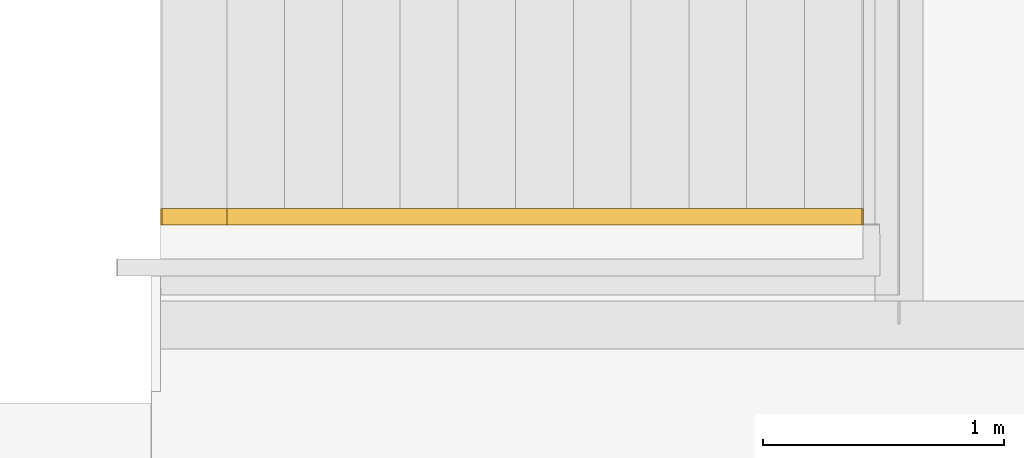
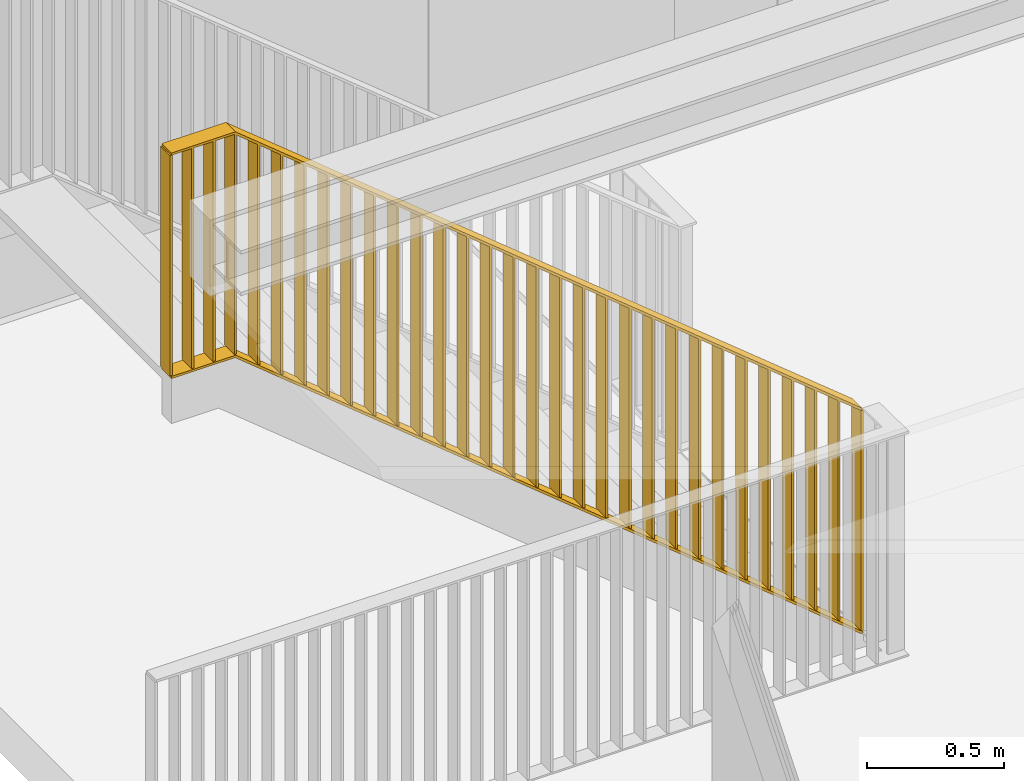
# One storey, part 22 of 35: 1 railing.
"""IFC2X3 building model written with IfcOpenShell, lengths in millimetres."""

from ifc_helpers import new_model, entity, si_unit, converted_unit, derived_unit, money_unit, direction, frame, origin_with_axes, place, context, subcontext, project, spatial, faceted_brep, material, material_list, type_object, element, save


model = new_model("IFC2X3")

# Units and contexts
model_context = context("Model", 3, precision=0.01, world=origin_with_axes(), true_north=direction((0.0, 1.0)))
body_context = subcontext(model_context, "Body", "Model", "MODEL_VIEW")
ifc_project = project(units=[si_unit("LENGTHUNIT", "METRE", prefix="MILLI"), si_unit("AREAUNIT", "SQUARE_METRE"), si_unit("VOLUMEUNIT", "CUBIC_METRE"), converted_unit("PLANEANGLEUNIT", "DEGREE", entity("IfcPlaneAngleMeasure", 0.0174532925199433), si_unit("PLANEANGLEUNIT", "RADIAN"), dimensions=[0, 0, 0, 0, 0, 0, 0]), money_unit("EUR"), converted_unit("TIMEUNIT", "Year", entity("IfcTimeMeasure", 31557600.0), si_unit("TIMEUNIT", "SECOND"), dimensions=[0, 0, 1, 0, 0, 0, 0]), si_unit("MASSUNIT", "GRAM", prefix="KILO"), si_unit("THERMODYNAMICTEMPERATUREUNIT", "DEGREE_CELSIUS"), si_unit("LUMINOUSINTENSITYUNIT", "LUMEN"), si_unit("ENERGYUNIT", "JOULE", prefix="MEGA"), derived_unit("THERMALCONDUCTANCEUNIT", [(si_unit("POWERUNIT", "WATT"), 1), (si_unit("LENGTHUNIT", "METRE"), -1), (si_unit("THERMODYNAMICTEMPERATUREUNIT", "KELVIN"), -1)]), derived_unit("SPECIFICHEATCAPACITYUNIT", [(si_unit("ENERGYUNIT", "JOULE"), 1), (si_unit("MASSUNIT", "GRAM", prefix="KILO"), -1), (si_unit("THERMODYNAMICTEMPERATUREUNIT", "KELVIN"), -1)]), derived_unit("MASSDENSITYUNIT", [(si_unit("MASSUNIT", "GRAM", prefix="KILO"), 1), (si_unit("VOLUMEUNIT", "CUBIC_METRE"), -1)])], contexts=[model_context])

# Site, building, storey
site_placement = place(None, origin_with_axes())
site = spatial("IfcSite", under=ifc_project, at=site_placement, Name="<site naam>", CompositionType="ELEMENT")
building_placement = place(site_placement, origin_with_axes())
building = spatial("IfcBuilding", under=site, at=building_placement, Name="<Naam gebouw>", CompositionType="ELEMENT")
storey_placement = place(building_placement, frame((0.0, 0.0, 6345.0), z_axis=(0.0, 0.0, 1.0), x_axis=(1.0, 0.0, 0.0)))
storey = spatial("IfcBuildingStorey", under=building, at=storey_placement, Name="02 2e tussenverdieping", CompositionType="ELEMENT", Elevation=6345.0)

# Railing
ifc_material = material(Name="staal balustrade")
ifc_material_list = material_list([ifc_material, ifc_material, ifc_material, ifc_material, ifc_material, ifc_material, ifc_material, ifc_material, ifc_material, ifc_material, ifc_material, ifc_material, ifc_material, ifc_material, ifc_material, ifc_material, ifc_material, ifc_material, ifc_material, ifc_material, ifc_material, ifc_material, ifc_material, ifc_material, ifc_material, ifc_material, ifc_material, ifc_material, ifc_material, ifc_material, ifc_material, ifc_material, ifc_material, ifc_material, ifc_material])
railing_type = type_object("IfcRailingType", Name="Railing Type", PredefinedType="NOTDEFINED")
railing_placement = place(storey_placement, frame((54815.00000000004, 8415.00000000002, -8.253160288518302e-05), z_axis=(0.0, 0.0, 1.0), x_axis=(1.0, 0.0, 0.0)))
element("IfcRailing", 1, at=railing_placement, inside=storey, type_object=railing_type, material=ifc_material_list, Name="34_Reling_", PredefinedType="NOTDEFINED", context=body_context, shape_type="Brep", body=[
    faceted_brep([(269.6011202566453, 0.0, 14.99999999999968), (269.6011202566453, 0.0, 995.0000000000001), (269.6011202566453, 70.00000000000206, 995.0000000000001), (269.6011202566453, 70.00000000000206, 14.99999999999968), (279.6011202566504, 0.0, 14.99999999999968), (279.6011202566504, 0.0, 995.0000000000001), (279.6011202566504, 70.00000000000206, 995.0000000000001), (279.6011202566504, 70.00000000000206, 14.99999999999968)], [[[0, 1, 2, 3]], [[4, 5, 1, 0]], [[1, 5, 6, 2]], [[3, 2, 6, 7]], [[0, 3, 7, 4]], [[7, 6, 5, 4]]]),
    faceted_brep([(-2370.398879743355, 0.0, 2170.000000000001), (-2370.398879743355, 0.0, 3150.0), (-2370.398879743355, 70.00000000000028, 3150.0), (-2370.398879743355, 70.00000000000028, 2170.000000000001), (-2360.39887974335, 0.0, 2170.000000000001), (-2360.39887974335, 0.0, 3150.0), (-2360.39887974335, 70.00000000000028, 3150.0), (-2360.39887974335, 70.00000000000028, 2170.000000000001)], [[[0, 1, 2, 3]], [[4, 5, 1, 0]], [[1, 5, 6, 2]], [[3, 2, 6, 7]], [[0, 3, 7, 4]], [[7, 6, 5, 4]]]),
    faceted_brep([(-2640.398879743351, 0.0, 2170.000000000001), (-2640.398879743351, 0.0, 3150.000000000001), (-2640.398879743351, 70.00000000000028, 3150.000000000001), (-2640.398879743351, 70.00000000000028, 2170.000000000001), (-2630.398879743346, 0.0, 2170.000000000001), (-2630.398879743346, 0.0, 3150.000000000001), (-2630.398879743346, 70.00000000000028, 3150.000000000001), (-2630.398879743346, 70.00000000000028, 2170.000000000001)], [[[0, 1, 2, 3]], [[4, 5, 1, 0]], [[1, 5, 6, 2]], [[3, 2, 6, 7]], [[0, 3, 7, 4]], [[7, 6, 5, 4]]]),
    faceted_brep([(274.6011202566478, 70.00000000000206, 1005.0), (268.2775350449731, 70.00000000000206, 997.2532413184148), (-2368.962113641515, 70.00000000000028, 3150.0), (-2365.398879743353, 70.00000000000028, 3159.999999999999), (274.6011202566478, 0.0, 1005.0), (268.2775350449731, 0.0, 997.2532413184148), (-2368.962113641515, 0.0, 3150.0), (-2365.398879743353, 0.0, 3159.999999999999)], [[[0, 1, 2, 3]], [[0, 4, 5, 1]], [[1, 5, 6, 2]], [[3, 2, 6, 7]], [[4, 0, 3, 7]], [[5, 4, 7, 6]]]),
    faceted_brep([(277.7629128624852, 70.00000000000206, 8.87337934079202), (271.4393276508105, 70.00000000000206, 1.126620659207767), (-2365.398879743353, 70.00000000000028, 2153.545687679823), (-2365.398879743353, 70.00000000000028, 2166.454312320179), (277.7629128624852, 0.0, 8.87337934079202), (271.4393276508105, 0.0, 1.126620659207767), (-2365.398879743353, 0.0, 2153.545687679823), (-2365.398879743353, 0.0, 2166.454312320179)], [[[0, 1, 2, 3]], [[0, 4, 5, 1]], [[1, 5, 6, 2]], [[3, 2, 6, 7]], [[4, 0, 3, 7]], [[5, 4, 7, 6]]]),
    faceted_brep([(171.8233424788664, 0.0, 98.89625420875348), (171.8233424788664, 0.0, 1078.896254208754), (171.8233424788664, 70.00000000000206, 1078.896254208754), (171.8233424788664, 70.00000000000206, 98.89625420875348), (181.8233424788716, 0.0, 90.733375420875), (181.8233424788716, 0.0, 1070.733375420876), (181.8233424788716, 70.00000000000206, 1070.733375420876), (181.8233424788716, 70.00000000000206, 90.733375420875)], [[[0, 1, 2, 3]], [[4, 5, 1, 0]], [[1, 5, 6, 2]], [[3, 2, 6, 7]], [[0, 3, 7, 4]], [[7, 6, 5, 4]]]),
    faceted_brep([(74.04556470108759, 0.0, 178.7110690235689), (74.04556470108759, 0.0, 1158.711069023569), (74.04556470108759, 70.00000000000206, 1158.711069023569), (74.04556470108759, 70.00000000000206, 178.7110690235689), (84.0455647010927, 0.0, 170.5481902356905), (84.0455647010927, 0.0, 1150.548190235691), (84.0455647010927, 70.00000000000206, 1150.548190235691), (84.0455647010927, 70.00000000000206, 170.5481902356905)], [[[0, 1, 2, 3]], [[4, 5, 1, 0]], [[1, 5, 6, 2]], [[3, 2, 6, 7]], [[0, 3, 7, 4]], [[7, 6, 5, 4]]]),
    faceted_brep([(-23.73221307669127, 0.0, 258.5258838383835), (-23.73221307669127, 0.0, 1238.525883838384), (-23.73221307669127, 70.00000000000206, 1238.525883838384), (-23.73221307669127, 70.00000000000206, 258.5258838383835), (-13.73221307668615, 0.0, 250.363005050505), (-13.73221307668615, 0.0, 1230.363005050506), (-13.73221307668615, 70.00000000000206, 1230.363005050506), (-13.73221307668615, 70.00000000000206, 250.363005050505)], [[[0, 1, 2, 3]], [[4, 5, 1, 0]], [[1, 5, 6, 2]], [[3, 2, 6, 7]], [[0, 3, 7, 4]], [[7, 6, 5, 4]]]),
    faceted_brep([(-121.509990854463, 0.0, 338.340698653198), (-121.509990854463, 0.0, 1318.340698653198), (-121.509990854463, 70.00000000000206, 1318.340698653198), (-121.509990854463, 70.00000000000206, 338.340698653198), (-111.5099908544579, 0.0, 330.1778198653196), (-111.5099908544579, 0.0, 1310.17781986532), (-111.5099908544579, 70.00000000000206, 1310.17781986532), (-111.5099908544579, 70.00000000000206, 330.1778198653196)], [[[0, 1, 2, 3]], [[4, 5, 1, 0]], [[1, 5, 6, 2]], [[3, 2, 6, 7]], [[0, 3, 7, 4]], [[7, 6, 5, 4]]]),
    faceted_brep([(-219.2877686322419, 0.0, 418.1555134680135), (-219.2877686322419, 0.0, 1398.155513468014), (-219.2877686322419, 70.00000000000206, 1398.155513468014), (-219.2877686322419, 70.00000000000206, 418.1555134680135), (-209.2877686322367, 0.0, 409.992634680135), (-209.2877686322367, 0.0, 1389.992634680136), (-209.2877686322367, 70.00000000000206, 1389.992634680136), (-209.2877686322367, 70.00000000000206, 409.992634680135)], [[[0, 1, 2, 3]], [[4, 5, 1, 0]], [[1, 5, 6, 2]], [[3, 2, 6, 7]], [[0, 3, 7, 4]], [[7, 6, 5, 4]]]),
    faceted_brep([(-317.0655464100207, 0.0, 497.9703282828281), (-317.0655464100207, 0.0, 1477.970328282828), (-317.0655464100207, 70.00000000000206, 1477.970328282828), (-317.0655464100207, 70.00000000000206, 497.9703282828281), (-307.0655464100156, 0.0, 489.8074494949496), (-307.0655464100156, 0.0, 1469.80744949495), (-307.0655464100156, 70.00000000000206, 1469.80744949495), (-307.0655464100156, 70.00000000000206, 489.8074494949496)], [[[0, 1, 2, 3]], [[4, 5, 1, 0]], [[1, 5, 6, 2]], [[3, 2, 6, 7]], [[0, 3, 7, 4]], [[7, 6, 5, 4]]]),
    faceted_brep([(-414.8433241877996, 0.0, 577.7851430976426), (-414.8433241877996, 0.0, 1557.785143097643), (-414.8433241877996, 70.00000000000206, 1557.785143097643), (-414.8433241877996, 70.00000000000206, 577.7851430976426), (-404.8433241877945, 0.0, 569.6222643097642), (-404.8433241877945, 0.0, 1549.622264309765), (-404.8433241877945, 70.00000000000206, 1549.622264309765), (-404.8433241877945, 70.00000000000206, 569.6222643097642)], [[[0, 1, 2, 3]], [[4, 5, 1, 0]], [[1, 5, 6, 2]], [[3, 2, 6, 7]], [[0, 3, 7, 4]], [[7, 6, 5, 4]]]),
    faceted_brep([(-512.6211019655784, 0.0, 657.5999579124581), (-512.6211019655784, 0.0, 1637.599957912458), (-512.6211019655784, 70.00000000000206, 1637.599957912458), (-512.6211019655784, 70.00000000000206, 657.5999579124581), (-502.6211019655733, 0.0, 649.4370791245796), (-502.6211019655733, 0.0, 1629.43707912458), (-502.6211019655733, 70.00000000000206, 1629.43707912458), (-502.6211019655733, 70.00000000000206, 649.4370791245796)], [[[0, 1, 2, 3]], [[4, 5, 1, 0]], [[1, 5, 6, 2]], [[3, 2, 6, 7]], [[0, 3, 7, 4]], [[7, 6, 5, 4]]]),
    faceted_brep([(-610.3988797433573, 0.0, 737.4147727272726), (-610.3988797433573, 0.0, 1717.414772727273), (-610.3988797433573, 70.00000000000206, 1717.414772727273), (-610.3988797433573, 70.00000000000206, 737.4147727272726), (-600.3988797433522, 0.0, 729.2518939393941), (-600.3988797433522, 0.0, 1709.251893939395), (-600.3988797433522, 70.00000000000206, 1709.251893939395), (-600.3988797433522, 70.00000000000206, 729.2518939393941)], [[[0, 1, 2, 3]], [[4, 5, 1, 0]], [[1, 5, 6, 2]], [[3, 2, 6, 7]], [[0, 3, 7, 4]], [[7, 6, 5, 4]]]),
    faceted_brep([(-708.1766575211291, 0.0, 817.2295875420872), (-708.1766575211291, 0.0, 1797.229587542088), (-708.1766575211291, 70.00000000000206, 1797.229587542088), (-708.1766575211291, 70.00000000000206, 817.2295875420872), (-698.1766575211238, 0.0, 809.0667087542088), (-698.1766575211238, 0.0, 1789.066708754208), (-698.1766575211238, 70.00000000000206, 1789.066708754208), (-698.1766575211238, 70.00000000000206, 809.0667087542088)], [[[0, 1, 2, 3]], [[4, 5, 1, 0]], [[1, 5, 6, 2]], [[3, 2, 6, 7]], [[0, 3, 7, 4]], [[7, 6, 5, 4]]]),
    faceted_brep([(-805.9544352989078, 0.0, 897.0444023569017), (-805.9544352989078, 0.0, 1877.044402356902), (-805.9544352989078, 70.00000000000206, 1877.044402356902), (-805.9544352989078, 70.00000000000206, 897.0444023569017), (-795.9544352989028, 0.0, 888.8815235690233), (-795.9544352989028, 0.0, 1868.881523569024), (-795.9544352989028, 70.00000000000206, 1868.881523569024), (-795.9544352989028, 70.00000000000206, 888.8815235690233)], [[[0, 1, 2, 3]], [[4, 5, 1, 0]], [[1, 5, 6, 2]], [[3, 2, 6, 7]], [[0, 3, 7, 4]], [[7, 6, 5, 4]]]),
    faceted_brep([(-903.7322130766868, 0.0, 976.8592171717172), (-903.7322130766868, 0.0, 1956.859217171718), (-903.7322130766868, 70.00000000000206, 1956.859217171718), (-903.7322130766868, 70.00000000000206, 976.8592171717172), (-893.7322130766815, 0.0, 968.6963383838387), (-893.7322130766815, 0.0, 1948.696338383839), (-893.7322130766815, 70.00000000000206, 1948.696338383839), (-893.7322130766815, 70.00000000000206, 968.6963383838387)], [[[0, 1, 2, 3]], [[4, 5, 1, 0]], [[1, 5, 6, 2]], [[3, 2, 6, 7]], [[0, 3, 7, 4]], [[7, 6, 5, 4]]]),
    faceted_brep([(-1001.509990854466, 0.0, 1056.674031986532), (-1001.509990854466, 0.0, 2036.674031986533), (-1001.509990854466, 70.00000000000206, 2036.674031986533), (-1001.509990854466, 70.00000000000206, 1056.674031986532), (-991.5099908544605, 0.0, 1048.511153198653), (-991.5099908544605, 0.0, 2028.511153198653), (-991.5099908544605, 70.00000000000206, 2028.511153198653), (-991.5099908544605, 70.00000000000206, 1048.511153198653)], [[[0, 1, 2, 3]], [[4, 5, 1, 0]], [[1, 5, 6, 2]], [[3, 2, 6, 7]], [[0, 3, 7, 4]], [[7, 6, 5, 4]]]),
    faceted_brep([(-1099.287768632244, 0.0, 1136.488846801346), (-1099.287768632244, 0.0, 2116.488846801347), (-1099.287768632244, 70.00000000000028, 2116.488846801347), (-1099.287768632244, 70.00000000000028, 1136.488846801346), (-1089.287768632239, 0.0, 1128.325968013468), (-1089.287768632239, 0.0, 2108.325968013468), (-1089.287768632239, 70.00000000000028, 2108.325968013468), (-1089.287768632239, 70.00000000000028, 1128.325968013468)], [[[0, 1, 2, 3]], [[4, 5, 1, 0]], [[1, 5, 6, 2]], [[3, 2, 6, 7]], [[0, 3, 7, 4]], [[7, 6, 5, 4]]]),
    faceted_brep([(-1197.065546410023, 0.0, 1216.303661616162), (-1197.065546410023, 0.0, 2196.303661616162), (-1197.065546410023, 70.00000000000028, 2196.303661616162), (-1197.065546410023, 70.00000000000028, 1216.303661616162), (-1187.065546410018, 0.0, 1208.140782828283), (-1187.065546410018, 0.0, 2188.140782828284), (-1187.065546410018, 70.00000000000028, 2188.140782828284), (-1187.065546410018, 70.00000000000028, 1208.140782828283)], [[[0, 1, 2, 3]], [[4, 5, 1, 0]], [[1, 5, 6, 2]], [[3, 2, 6, 7]], [[0, 3, 7, 4]], [[7, 6, 5, 4]]]),
    faceted_brep([(-1294.843324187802, 0.0, 1296.118476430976), (-1294.843324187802, 0.0, 2276.118476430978), (-1294.843324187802, 70.00000000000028, 2276.118476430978), (-1294.843324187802, 70.00000000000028, 1296.118476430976), (-1284.843324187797, 0.0, 1287.955597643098), (-1284.843324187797, 0.0, 2267.955597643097), (-1284.843324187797, 70.00000000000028, 2267.955597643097), (-1284.843324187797, 70.00000000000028, 1287.955597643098)], [[[0, 1, 2, 3]], [[4, 5, 1, 0]], [[1, 5, 6, 2]], [[3, 2, 6, 7]], [[0, 3, 7, 4]], [[7, 6, 5, 4]]]),
    faceted_brep([(-1392.621101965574, 0.0, 1375.933291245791), (-1392.621101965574, 0.0, 2355.933291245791), (-1392.621101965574, 70.00000000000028, 2355.933291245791), (-1392.621101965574, 70.00000000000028, 1375.933291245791), (-1382.621101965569, 0.0, 1367.770412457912), (-1382.621101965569, 0.0, 2347.770412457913), (-1382.621101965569, 70.00000000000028, 2347.770412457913), (-1382.621101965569, 70.00000000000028, 1367.770412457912)], [[[0, 1, 2, 3]], [[4, 5, 1, 0]], [[1, 5, 6, 2]], [[3, 2, 6, 7]], [[0, 3, 7, 4]], [[7, 6, 5, 4]]]),
    faceted_brep([(-1490.398879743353, 0.0, 1455.748106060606), (-1490.398879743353, 0.0, 2435.748106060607), (-1490.398879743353, 70.00000000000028, 2435.748106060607), (-1490.398879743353, 70.00000000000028, 1455.748106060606), (-1480.398879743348, 0.0, 1447.585227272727), (-1480.398879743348, 0.0, 2427.585227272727), (-1480.398879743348, 70.00000000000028, 2427.585227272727), (-1480.398879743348, 70.00000000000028, 1447.585227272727)], [[[0, 1, 2, 3]], [[4, 5, 1, 0]], [[1, 5, 6, 2]], [[3, 2, 6, 7]], [[0, 3, 7, 4]], [[7, 6, 5, 4]]]),
    faceted_brep([(-1588.176657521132, 0.0, 1535.562920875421), (-1588.176657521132, 0.0, 2515.562920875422), (-1588.176657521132, 70.00000000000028, 2515.562920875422), (-1588.176657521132, 70.00000000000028, 1535.562920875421), (-1578.176657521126, 0.0, 1527.400042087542), (-1578.176657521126, 0.0, 2507.400042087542), (-1578.176657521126, 70.00000000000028, 2507.400042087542), (-1578.176657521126, 70.00000000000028, 1527.400042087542)], [[[0, 1, 2, 3]], [[4, 5, 1, 0]], [[1, 5, 6, 2]], [[3, 2, 6, 7]], [[0, 3, 7, 4]], [[7, 6, 5, 4]]]),
    faceted_brep([(-1685.954435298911, 0.0, 1615.377735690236), (-1685.954435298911, 0.0, 2595.377735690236), (-1685.954435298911, 70.00000000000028, 2595.377735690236), (-1685.954435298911, 70.00000000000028, 1615.377735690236), (-1675.954435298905, 0.0, 1607.214856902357), (-1675.954435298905, 0.0, 2587.214856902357), (-1675.954435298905, 70.00000000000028, 2587.214856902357), (-1675.954435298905, 70.00000000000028, 1607.214856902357)], [[[0, 1, 2, 3]], [[4, 5, 1, 0]], [[1, 5, 6, 2]], [[3, 2, 6, 7]], [[0, 3, 7, 4]], [[7, 6, 5, 4]]]),
    faceted_brep([(-1783.732213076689, 0.0, 1695.192550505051), (-1783.732213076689, 0.0, 2675.192550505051), (-1783.732213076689, 70.00000000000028, 2675.192550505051), (-1783.732213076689, 70.00000000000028, 1695.192550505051), (-1773.732213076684, 0.0, 1687.029671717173), (-1773.732213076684, 0.0, 2667.029671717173), (-1773.732213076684, 70.00000000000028, 2667.029671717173), (-1773.732213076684, 70.00000000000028, 1687.029671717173)], [[[0, 1, 2, 3]], [[4, 5, 1, 0]], [[1, 5, 6, 2]], [[3, 2, 6, 7]], [[0, 3, 7, 4]], [[7, 6, 5, 4]]]),
    faceted_brep([(-1881.509990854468, 0.0, 1775.007365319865), (-1881.509990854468, 0.0, 2755.007365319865), (-1881.509990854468, 70.00000000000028, 2755.007365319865), (-1881.509990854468, 70.00000000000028, 1775.007365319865), (-1871.509990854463, 0.0, 1766.844486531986), (-1871.509990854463, 0.0, 2746.844486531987), (-1871.509990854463, 70.00000000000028, 2746.844486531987), (-1871.509990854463, 70.00000000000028, 1766.844486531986)], [[[0, 1, 2, 3]], [[4, 5, 1, 0]], [[1, 5, 6, 2]], [[3, 2, 6, 7]], [[0, 3, 7, 4]], [[7, 6, 5, 4]]]),
    faceted_brep([(-1979.287768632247, 0.0, 1854.82218013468), (-1979.287768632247, 0.0, 2834.82218013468), (-1979.287768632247, 70.00000000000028, 2834.82218013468), (-1979.287768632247, 70.00000000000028, 1854.82218013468), (-1969.287768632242, 0.0, 1846.659301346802), (-1969.287768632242, 0.0, 2826.659301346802), (-1969.287768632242, 70.00000000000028, 2826.659301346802), (-1969.287768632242, 70.00000000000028, 1846.659301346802)], [[[0, 1, 2, 3]], [[4, 5, 1, 0]], [[1, 5, 6, 2]], [[3, 2, 6, 7]], [[0, 3, 7, 4]], [[7, 6, 5, 4]]]),
    faceted_brep([(-2077.065546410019, 0.0, 1934.636994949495), (-2077.065546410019, 0.0, 2914.636994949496), (-2077.065546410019, 70.00000000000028, 2914.636994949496), (-2077.065546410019, 70.00000000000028, 1934.636994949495), (-2067.065546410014, 0.0, 1926.474116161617), (-2067.065546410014, 0.0, 2906.474116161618), (-2067.065546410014, 70.00000000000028, 2906.474116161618), (-2067.065546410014, 70.00000000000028, 1926.474116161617)], [[[0, 1, 2, 3]], [[4, 5, 1, 0]], [[1, 5, 6, 2]], [[3, 2, 6, 7]], [[0, 3, 7, 4]], [[7, 6, 5, 4]]]),
    faceted_brep([(-2174.843324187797, 0.0, 2014.451809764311), (-2174.843324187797, 0.0, 2994.451809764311), (-2174.843324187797, 70.00000000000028, 2994.451809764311), (-2174.843324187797, 70.00000000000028, 2014.451809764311), (-2164.843324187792, 0.0, 2006.288930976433), (-2164.843324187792, 0.0, 2986.288930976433), (-2164.843324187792, 70.00000000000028, 2986.288930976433), (-2164.843324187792, 70.00000000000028, 2006.288930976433)], [[[0, 1, 2, 3]], [[4, 5, 1, 0]], [[1, 5, 6, 2]], [[3, 2, 6, 7]], [[0, 3, 7, 4]], [[7, 6, 5, 4]]]),
    faceted_brep([(-2272.621101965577, 0.0, 2094.266624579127), (-2272.621101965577, 0.0, 3074.266624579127), (-2272.621101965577, 70.00000000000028, 3074.266624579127), (-2272.621101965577, 70.00000000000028, 2094.266624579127), (-2262.621101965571, 0.0, 2086.103745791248), (-2262.621101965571, 0.0, 3066.103745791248), (-2262.621101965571, 70.00000000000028, 3066.103745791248), (-2262.621101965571, 70.00000000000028, 2086.103745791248)], [[[0, 1, 2, 3]], [[4, 5, 1, 0]], [[1, 5, 6, 2]], [[3, 2, 6, 7]], [[0, 3, 7, 4]], [[7, 6, 5, 4]]]),
    faceted_brep([(-2365.398879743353, 70.00000000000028, 3159.999999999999), (-2368.962113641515, 70.00000000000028, 3150.0), (-2635.398879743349, 70.00000000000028, 3150.0), (-2635.398879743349, 70.00000000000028, 3159.999999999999), (-2365.398879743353, 0.0, 3159.999999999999), (-2368.962113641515, 0.0, 3150.0), (-2635.398879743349, 0.0, 3150.0), (-2635.398879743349, 0.0, 3159.999999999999)], [[[0, 1, 2, 3]], [[0, 4, 5, 1]], [[1, 5, 6, 2]], [[3, 2, 6, 7]], [[4, 0, 3, 7]], [[5, 4, 7, 6]]]),
    faceted_brep([(-2365.398879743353, 70.00000000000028, 2165.000000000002), (-2365.398879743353, 70.00000000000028, 2155.0), (-2635.398879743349, 70.00000000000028, 2155.0), (-2635.398879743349, 70.00000000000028, 2165.000000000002), (-2365.398879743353, 0.0, 2165.000000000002), (-2365.398879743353, 0.0, 2155.0), (-2635.398879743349, 0.0, 2155.0), (-2635.398879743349, 0.0, 2165.000000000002)], [[[0, 1, 2, 3]], [[0, 4, 5, 1]], [[1, 5, 6, 2]], [[3, 2, 6, 7]], [[4, 0, 3, 7]], [[5, 4, 7, 6]]]),
    faceted_brep([(-2460.398879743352, 0.0, 2170.000000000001), (-2460.398879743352, 0.0, 3150.000000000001), (-2460.398879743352, 70.00000000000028, 3150.000000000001), (-2460.398879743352, 70.00000000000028, 2170.000000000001), (-2450.398879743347, 0.0, 2170.000000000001), (-2450.398879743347, 0.0, 3150.000000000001), (-2450.398879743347, 70.00000000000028, 3150.000000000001), (-2450.398879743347, 70.00000000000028, 2170.000000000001)], [[[0, 1, 2, 3]], [[4, 5, 1, 0]], [[1, 5, 6, 2]], [[3, 2, 6, 7]], [[0, 3, 7, 4]], [[7, 6, 5, 4]]]),
    faceted_brep([(-2550.398879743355, 0.0, 2170.000000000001), (-2550.398879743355, 0.0, 3150.000000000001), (-2550.398879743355, 70.00000000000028, 3150.000000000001), (-2550.398879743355, 70.00000000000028, 2170.000000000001), (-2540.39887974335, 0.0, 2170.000000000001), (-2540.39887974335, 0.0, 3150.000000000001), (-2540.39887974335, 70.00000000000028, 3150.000000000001), (-2540.39887974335, 70.00000000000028, 2170.000000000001)], [[[0, 1, 2, 3]], [[4, 5, 1, 0]], [[1, 5, 6, 2]], [[3, 2, 6, 7]], [[0, 3, 7, 4]], [[7, 6, 5, 4]]]),
])

save(model, "model.ifc")
